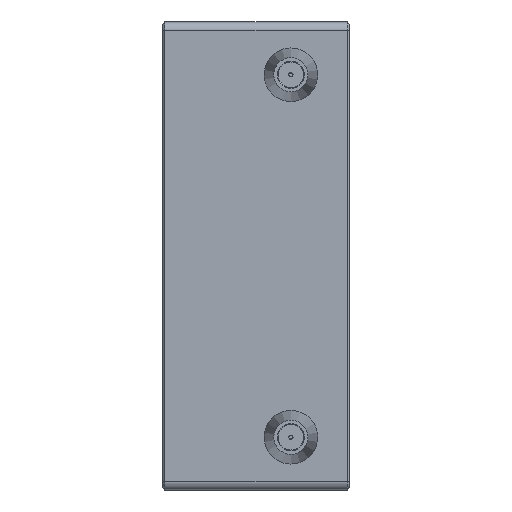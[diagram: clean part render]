
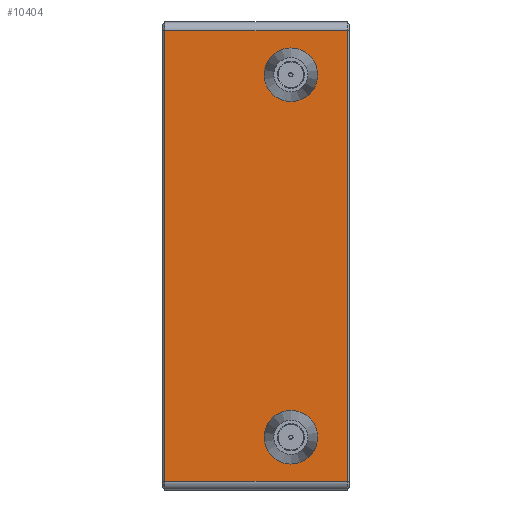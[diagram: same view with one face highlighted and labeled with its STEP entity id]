
A CAD part, left-side view. The second image highlights one B-rep face of the part: STEP entity #10404.
In plain terms, the highlighted planar face has unit normal (-1, 0, 0).
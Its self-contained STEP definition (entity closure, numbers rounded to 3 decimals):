
#899=FACE_BOUND('',#1887,.T.);
#900=FACE_BOUND('',#1888,.T.);
#969=PLANE('',#11055);
#1258=FACE_OUTER_BOUND('',#1886,.T.);
#1886=EDGE_LOOP('',(#7161,#7162,#7163,#7164));
#1887=EDGE_LOOP('',(#7165));
#1888=EDGE_LOOP('',(#7166));
#2578=LINE('',#13526,#3448);
#2579=LINE('',#13528,#3449);
#2580=LINE('',#13530,#3450);
#2581=LINE('',#13531,#3451);
#3448=VECTOR('',#11612,10.);
#3449=VECTOR('',#11613,10.);
#3450=VECTOR('',#11614,10.);
#3451=VECTOR('',#11615,10.);
#4320=CIRCLE('',#11052,3.15);
#4321=CIRCLE('',#11056,3.15);
#4494=VERTEX_POINT('',#13518);
#4495=VERTEX_POINT('',#13524);
#4496=VERTEX_POINT('',#13525);
#4497=VERTEX_POINT('',#13527);
#4498=VERTEX_POINT('',#13529);
#4499=VERTEX_POINT('',#13532);
#5544=EDGE_CURVE('',#4494,#4494,#4320,.T.);
#5546=EDGE_CURVE('',#4495,#4496,#2578,.T.);
#5547=EDGE_CURVE('',#4495,#4497,#2579,.T.);
#5548=EDGE_CURVE('',#4498,#4497,#2580,.T.);
#5549=EDGE_CURVE('',#4496,#4498,#2581,.T.);
#5550=EDGE_CURVE('',#4499,#4499,#4321,.T.);
#7161=ORIENTED_EDGE('',*,*,#5546,.F.);
#7162=ORIENTED_EDGE('',*,*,#5547,.T.);
#7163=ORIENTED_EDGE('',*,*,#5548,.F.);
#7164=ORIENTED_EDGE('',*,*,#5549,.F.);
#7165=ORIENTED_EDGE('',*,*,#5550,.T.);
#7166=ORIENTED_EDGE('',*,*,#5544,.T.);
#10404=ADVANCED_FACE('',(#1258,#899,#900),#969,.T.);
#11052=AXIS2_PLACEMENT_3D('',#13519,#11603,#11604);
#11055=AXIS2_PLACEMENT_3D('',#13523,#11610,#11611);
#11056=AXIS2_PLACEMENT_3D('',#13533,#11616,#11617);
#11603=DIRECTION('center_axis',(1.,0.,0.));
#11604=DIRECTION('ref_axis',(0.,0.,1.));
#11610=DIRECTION('center_axis',(-1.,0.,0.));
#11611=DIRECTION('ref_axis',(0.,0.,-1.));
#11612=DIRECTION('',(0.,0.,1.));
#11613=DIRECTION('',(0.,-1.,0.));
#11614=DIRECTION('',(0.,0.,-1.));
#11615=DIRECTION('',(0.,-1.,0.));
#11616=DIRECTION('center_axis',(1.,0.,0.));
#11617=DIRECTION('ref_axis',(0.,0.,1.));
#13518=CARTESIAN_POINT('',(-25.,-5.3,-24.45));
#13519=CARTESIAN_POINT('Origin',(-25.,-5.3,-21.3));
#13523=CARTESIAN_POINT('Origin',(-25.,0.,27.5));
#13524=CARTESIAN_POINT('',(-25.,9.5,-26.5));
#13525=CARTESIAN_POINT('',(-25.,9.5,26.5));
#13526=CARTESIAN_POINT('',(-25.,9.5,20.625));
#13527=CARTESIAN_POINT('',(-25.,-11.9,-26.5));
#13528=CARTESIAN_POINT('',(-25.,0.,-26.5));
#13529=CARTESIAN_POINT('',(-25.,-11.9,26.5));
#13530=CARTESIAN_POINT('',(-25.,-11.9,20.625));
#13531=CARTESIAN_POINT('',(-25.,0.,26.5));
#13532=CARTESIAN_POINT('',(-25.,-5.3,18.15));
#13533=CARTESIAN_POINT('Origin',(-25.,-5.3,21.3));
